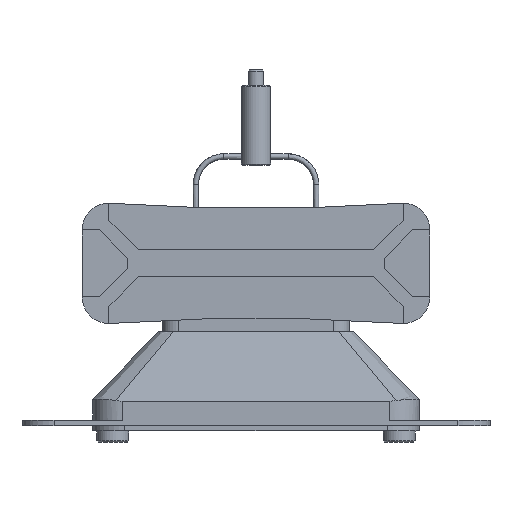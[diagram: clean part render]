
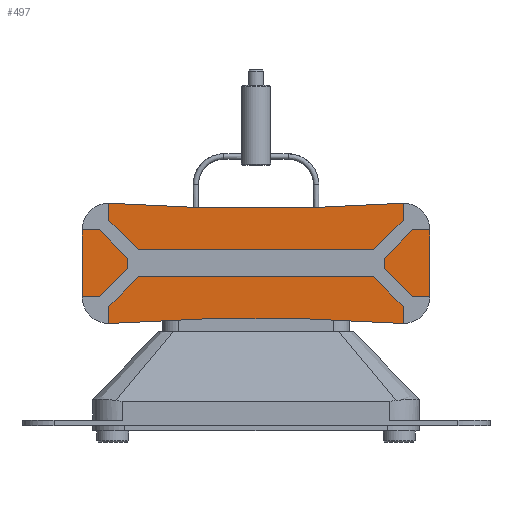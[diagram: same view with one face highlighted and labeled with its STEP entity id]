
A CAD part, left-side view. The second image highlights one B-rep face of the part: STEP entity #497.
In plain terms, the highlighted planar face has unit normal (-1, 0, 0).
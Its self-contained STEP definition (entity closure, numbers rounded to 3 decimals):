
#308=PLANE('',#5268);
#497=ADVANCED_FACE('',(#819),#308,.F.);
#819=FACE_OUTER_BOUND('',#1055,.T.);
#1055=EDGE_LOOP('',(#2052,#2053,#2054,#2055,#2056,#2057,#2058,#2059,#2060,
#2061,#2062,#2063));
#1358=CIRCLE('',#5177,757.25);
#1386=CIRCLE('',#5267,757.25);
#2052=ORIENTED_EDGE('',*,*,#3736,.T.);
#2053=ORIENTED_EDGE('',*,*,#3737,.F.);
#2054=ORIENTED_EDGE('',*,*,#3738,.F.);
#2055=ORIENTED_EDGE('',*,*,#3739,.T.);
#2056=ORIENTED_EDGE('',*,*,#3740,.F.);
#2057=ORIENTED_EDGE('',*,*,#3741,.F.);
#2058=ORIENTED_EDGE('',*,*,#3481,.T.);
#2059=ORIENTED_EDGE('',*,*,#3742,.F.);
#2060=ORIENTED_EDGE('',*,*,#3743,.F.);
#2061=ORIENTED_EDGE('',*,*,#3744,.T.);
#2062=ORIENTED_EDGE('',*,*,#3745,.T.);
#2063=ORIENTED_EDGE('',*,*,#3746,.T.);
#2980=VERTEX_POINT('',#7517);
#2981=VERTEX_POINT('',#7519);
#3159=VERTEX_POINT('',#8071);
#3160=VERTEX_POINT('',#8072);
#3161=VERTEX_POINT('',#8074);
#3162=VERTEX_POINT('',#8076);
#3163=VERTEX_POINT('',#8078);
#3164=VERTEX_POINT('',#8080);
#3165=VERTEX_POINT('',#8083);
#3166=VERTEX_POINT('',#8085);
#3167=VERTEX_POINT('',#8087);
#3168=VERTEX_POINT('',#8089);
#3481=EDGE_CURVE('',#2981,#2980,#1358,.T.);
#3736=EDGE_CURVE('',#3159,#3160,#1386,.T.);
#3737=EDGE_CURVE('',#3161,#3160,#4375,.T.);
#3738=EDGE_CURVE('',#3162,#3161,#4376,.T.);
#3739=EDGE_CURVE('',#3162,#3163,#4377,.T.);
#3740=EDGE_CURVE('',#3164,#3163,#4378,.T.);
#3741=EDGE_CURVE('',#2981,#3164,#4379,.T.);
#3742=EDGE_CURVE('',#3165,#2980,#4380,.T.);
#3743=EDGE_CURVE('',#3166,#3165,#4381,.T.);
#3744=EDGE_CURVE('',#3166,#3167,#4382,.T.);
#3745=EDGE_CURVE('',#3167,#3168,#4383,.T.);
#3746=EDGE_CURVE('',#3168,#3159,#4384,.T.);
#4375=LINE('',#8073,#4895);
#4376=LINE('',#8075,#4896);
#4377=LINE('',#8077,#4897);
#4378=LINE('',#8079,#4898);
#4379=LINE('',#8081,#4899);
#4380=LINE('',#8082,#4900);
#4381=LINE('',#8084,#4901);
#4382=LINE('',#8086,#4902);
#4383=LINE('',#8088,#4903);
#4384=LINE('',#8090,#4904);
#4895=VECTOR('',#6078,1.);
#4896=VECTOR('',#6079,1.);
#4897=VECTOR('',#6080,1.);
#4898=VECTOR('',#6081,1.);
#4899=VECTOR('',#6082,1.);
#4900=VECTOR('',#6083,1.);
#4901=VECTOR('',#6084,1.);
#4902=VECTOR('',#6085,1.);
#4903=VECTOR('',#6086,1.);
#4904=VECTOR('',#6087,1.);
#5177=AXIS2_PLACEMENT_3D('',#7518,#5670,#5671);
#5267=AXIS2_PLACEMENT_3D('',#8070,#6076,#6077);
#5268=AXIS2_PLACEMENT_3D('',#8091,#6088,#6089);
#5670=DIRECTION('',(1.,0.,0.));
#5671=DIRECTION('',(0.,1.,0.));
#6076=DIRECTION('',(1.,0.,0.));
#6077=DIRECTION('',(0.,1.,0.));
#6078=DIRECTION('',(0.,0.,-1.));
#6079=DIRECTION('',(0.,1.,0.));
#6080=DIRECTION('',(0.,0.,1.));
#6081=DIRECTION('',(0.,-1.,0.));
#6082=DIRECTION('',(0.,0.,-1.));
#6083=DIRECTION('',(0.,0.,1.));
#6084=DIRECTION('',(0.,-1.,0.));
#6085=DIRECTION('',(0.,0.,-1.));
#6086=DIRECTION('',(0.,-1.,0.));
#6087=DIRECTION('',(0.,0.,-1.));
#6088=DIRECTION('',(1.,0.,0.));
#6089=DIRECTION('',(0.,0.,1.));
#7517=CARTESIAN_POINT('',(-345.5,55.,35.15));
#7518=CARTESIAN_POINT('',(-345.5,0.,790.4));
#7519=CARTESIAN_POINT('',(-345.5,-55.,35.15));
#8070=CARTESIAN_POINT('',(-345.5,0.,-765.1));
#8071=CARTESIAN_POINT('',(-345.5,55.,-9.85));
#8072=CARTESIAN_POINT('',(-345.5,-55.,-9.85));
#8073=CARTESIAN_POINT('',(-345.5,-55.,-765.1));
#8074=CARTESIAN_POINT('',(-345.5,-55.,0.15));
#8075=CARTESIAN_POINT('',(-345.5,0.,0.15));
#8076=CARTESIAN_POINT('',(-345.5,-65.,0.15));
#8077=CARTESIAN_POINT('',(-345.5,-65.,25.15));
#8078=CARTESIAN_POINT('',(-345.5,-65.,25.15));
#8079=CARTESIAN_POINT('',(-345.5,0.,25.15));
#8080=CARTESIAN_POINT('',(-345.5,-55.,25.15));
#8081=CARTESIAN_POINT('',(-345.5,-55.,-765.1));
#8082=CARTESIAN_POINT('',(-345.5,55.,-765.1));
#8083=CARTESIAN_POINT('',(-345.5,55.,25.15));
#8084=CARTESIAN_POINT('',(-345.5,0.,25.15));
#8085=CARTESIAN_POINT('',(-345.5,65.,25.15));
#8086=CARTESIAN_POINT('',(-345.5,65.,-9.85));
#8087=CARTESIAN_POINT('',(-345.5,65.,0.15));
#8088=CARTESIAN_POINT('',(-345.5,0.,0.15));
#8089=CARTESIAN_POINT('',(-345.5,55.,0.15));
#8090=CARTESIAN_POINT('',(-345.5,55.,-765.1));
#8091=CARTESIAN_POINT('',(-345.5,0.,-765.1));
